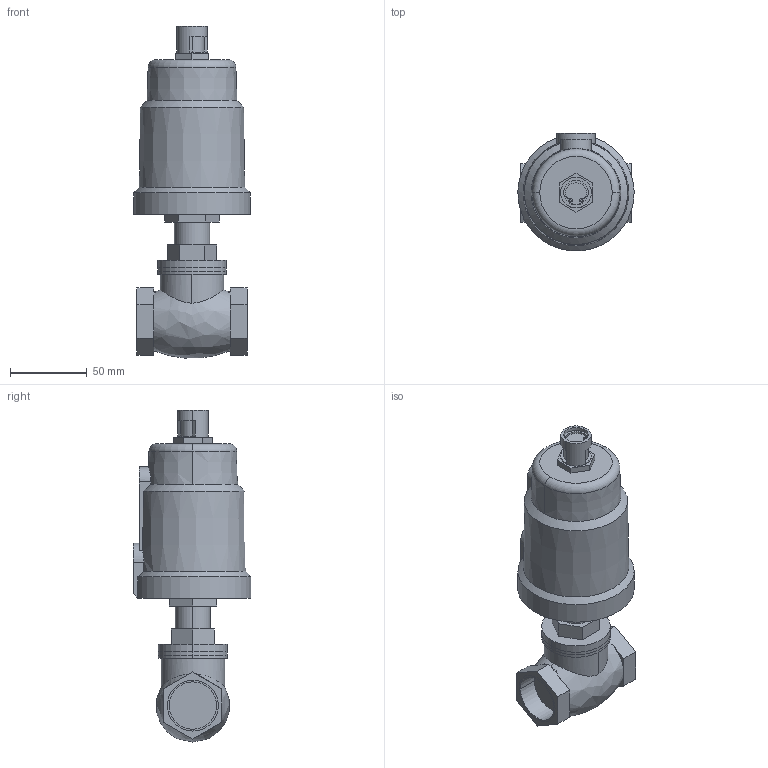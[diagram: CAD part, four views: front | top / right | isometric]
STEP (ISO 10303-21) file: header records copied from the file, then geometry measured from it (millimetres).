
FILE_DESCRIPTION((''),'2;1');
FILE_NAME('SB_KLAPAN_ASM','2024-06-08T',('AMD'),(''),'PRO/ENGINEER BY PARAMETRIC TECHNOLOGY CORPORATION, 2008020','PRO/ENGINEER BY PARAMETRIC TECHNOLOGY CORPORATION, 2008020','');
FILE_SCHEMA(('CONFIG_CONTROL_DESIGN'));
Length unit declared in the file: millimetre
Products named in the file (5): KLAPAN; UPLOTNENIE; KOLCO_16_GOST13943; KOLCO_65_GOST13943; SB_KLAPAN_ASM
Assembly tree (4 placements, depth 2):
  SB_KLAPAN_ASM
    KLAPAN
    UPLOTNENIE
    KOLCO_16_GOST13943
    KOLCO_65_GOST13943
Bounding box: 75.92 x 76.86 x 216.8 mm (x, y, z)
Volume: 484505.8 mm3; surface area: 62273.2 mm2
Topology: 4 solids, 8 shells, 167 faces, 414 edges, 272 vertices
Faces by surface type: plane 87, cylinder 69, cone 5, torus 4, bspline 2
Entity records: 5378 total; most frequent: CARTESIAN_POINT 1143, DIRECTION 916, ORIENTED_EDGE 812, EDGE_CURVE 414, AXIS2_PLACEMENT_3D 351, VERTEX_POINT 272, VECTOR 214, LINE 214
